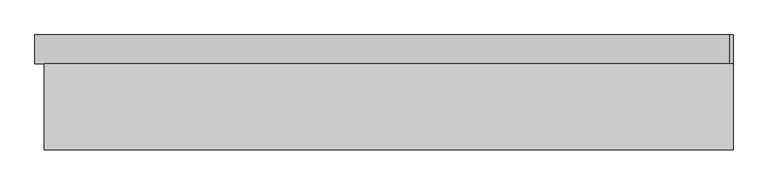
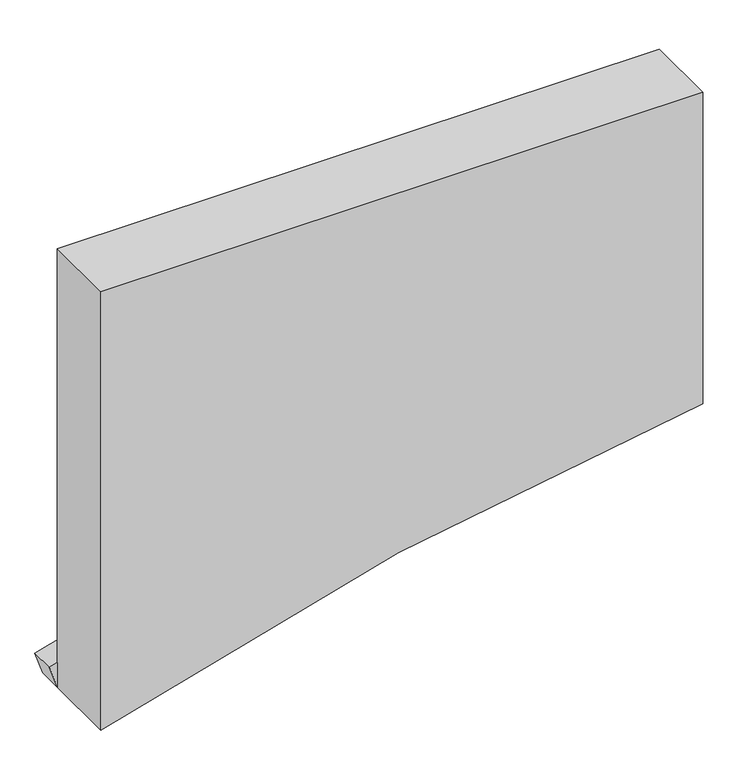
"""IFC4 building model written with IfcOpenShell, lengths in millimetres: proxy geometry, 走廊板 : h=300mm."""

from ifc_helpers import new_model, si_unit, point, frame, frame_2d, origin, place, context, project, spatial, polyline, circle_curve, trimmed, segment, composite_curve, outline, extrude, source, transform, mapped, element, save


def generic_models_1d46b465(model_context):
    return source(origin(), model_context, "Body", "SweptSolid", [
        extrude(outline(composite_curve([segment(trimmed(circle_curve(frame_2d((-12737.7594146, 3700.0)), 11600.0), [point((-1212.1149247, 2388.6956522))], [point((-1754.5505082, -32.173913))], False, "CARTESIAN"), True, "CONTINUOUS"), segment(polyline([(-1754.5505082, -32.173913), (-1849.2333436, 0.0)]), True, "CONTINUOUS"), segment(trimmed(circle_curve(frame_2d((-12737.7594146, 3700.0)), 11500.0), [point((-1849.2333436, 0.0))], [point((-1311.4739289, 2400.0))], True, "CARTESIAN"), True, "CONTINUOUS"), segment(polyline([(-1311.4739289, 2400.0), (-1212.1149247, 2388.6956522)]), True, "CONTINUOUS")], self_intersect=False)), frame((0.0, 150.0, 0.0), z_axis=(0.0, 1.0, 0.0), x_axis=(0.0, 0.0, 1.0)), (0.0, 0.0, 1.0), 100.0),
        extrude(outline(composite_curve([segment(polyline([(0.0, 2400.0), (0.0, 0.0), (-1849.2333436, 0.0)]), True, "CONTINUOUS"), segment(trimmed(circle_curve(frame_2d((-12737.7594146, 3700.0)), 11500.0), [point((-1849.2333436, 0.0))], [point((-1311.4739289, 2400.0))], True, "CARTESIAN"), True, "CONTINUOUS"), segment(polyline([(-1311.4739289, 2400.0), (0.0, 2400.0)]), True, "CONTINUOUS")], self_intersect=False)), frame((0.0, -150.0, 0.0), z_axis=(0.0, 1.0, 0.0), x_axis=(0.0, 0.0, 1.0)), (0.0, 0.0, 1.0), 300.0),
    ])


if __name__ == "__main__":
    model = new_model("IFC4")
    model_context = context("Model", 3, world=origin())
    ifc_project = project(units=[si_unit("LENGTHUNIT", "METRE", prefix="MILLI")], contexts=[model_context])
    site = spatial("IfcSite", under=ifc_project)
    building = spatial("IfcBuilding", under=site)
    placement = place(None, origin())
    generic_models_shape = generic_models_1d46b465(model_context)
    element("IfcBuildingElementProxy", 1, Name="走廊板 : h=300mm", ObjectType="走廊板 : h=300mm", at=placement, inside=building, context=model_context, shape_type="MappedRepresentation", body=[
        mapped(generic_models_shape, transform((0.0, 0.0, 0.0), x_axis=(1.0, 0.0, 0.0), y_axis=(0.0, 1.0, 0.0), z_axis=(0.0, 0.0, 1.0))),
    ])
    save(model, "model.ifc")
